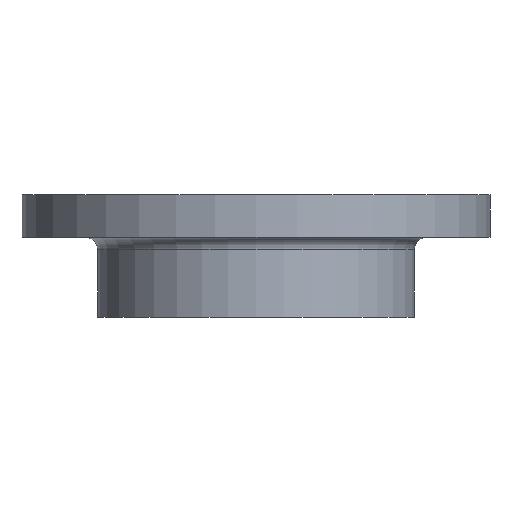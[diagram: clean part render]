
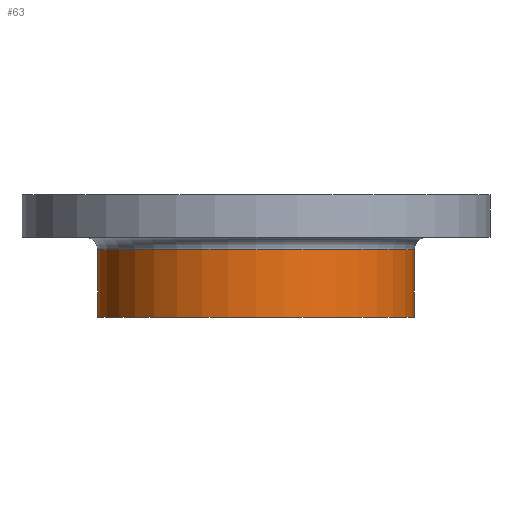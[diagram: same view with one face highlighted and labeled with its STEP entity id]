
A CAD part, front view. The second image highlights one B-rep face of the part: STEP entity #63.
In plain terms, the highlighted cylindrical face has radius 127 mm (diameter 254 mm), a partial arc.
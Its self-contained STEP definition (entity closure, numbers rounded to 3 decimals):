
#13 = EDGE_CURVE ( 'NONE', #970, #1125, #884, .T. ) ;
#42 = DIRECTION ( 'NONE',  ( 1., 0., 0. ) ) ;
#43 = DIRECTION ( 'NONE',  ( 0., 0., 1. ) ) ;
#50 = AXIS2_PLACEMENT_3D ( 'NONE', #411, #410, #409 ) ;
#63 = ADVANCED_FACE ( 'NONE', ( #601 ), #642, .T. ) ;
#87 = VECTOR ( 'NONE', #886, 1000. ) ;
#118 = CARTESIAN_POINT ( 'NONE',  ( -127., 0., -44. ) ) ;
#132 = CARTESIAN_POINT ( 'NONE',  ( 127., 0., -98. ) ) ;
#157 = AXIS2_PLACEMENT_3D ( 'NONE', #604, #640, #630 ) ;
#286 = EDGE_CURVE ( 'NONE', #1125, #860, #691, .T. ) ;
#325 = CARTESIAN_POINT ( 'NONE',  ( -127., 0., -98. ) ) ;
#409 = DIRECTION ( 'NONE',  ( 1., 0., 0. ) ) ;
#410 = DIRECTION ( 'NONE',  ( 0., 0., 1. ) ) ;
#411 = CARTESIAN_POINT ( 'NONE',  ( 0., 0., -98. ) ) ;
#415 = CARTESIAN_POINT ( 'NONE',  ( 127., 0., -44. ) ) ;
#515 = DIRECTION ( 'NONE',  ( 0., 0., 1. ) ) ;
#516 = CARTESIAN_POINT ( 'NONE',  ( 127., 0., 0. ) ) ;
#517 = LINE ( 'NONE', #516, #1026 ) ;
#588 = CIRCLE ( 'NONE', #50, 127. ) ;
#601 = FACE_OUTER_BOUND ( 'NONE', #835, .T. ) ;
#604 = CARTESIAN_POINT ( 'NONE',  ( 0., 0., 0. ) ) ;
#611 = EDGE_CURVE ( 'NONE', #1110, #860, #517, .T. ) ;
#630 = DIRECTION ( 'NONE',  ( 1., 0., 0. ) ) ;
#640 = DIRECTION ( 'NONE',  ( 0., 0., 1. ) ) ;
#642 = CYLINDRICAL_SURFACE ( 'NONE', #157, 127. ) ;
#652 = CARTESIAN_POINT ( 'NONE',  ( 0., 0., -44. ) ) ;
#691 = CIRCLE ( 'NONE', #1025, 127. ) ;
#835 = EDGE_LOOP ( 'NONE', ( #1155, #1157, #1159, #1160 ) ) ;
#860 = VERTEX_POINT ( 'NONE', #415 ) ;
#862 = EDGE_CURVE ( 'NONE', #970, #1110, #588, .T. ) ;
#884 = LINE ( 'NONE', #885, #87 ) ;
#885 = CARTESIAN_POINT ( 'NONE',  ( -127., 0., 0. ) ) ;
#886 = DIRECTION ( 'NONE',  ( 0., 0., 1. ) ) ;
#970 = VERTEX_POINT ( 'NONE', #325 ) ;
#1025 = AXIS2_PLACEMENT_3D ( 'NONE', #652, #43, #42 ) ;
#1026 = VECTOR ( 'NONE', #515, 1000. ) ;
#1110 = VERTEX_POINT ( 'NONE', #132 ) ;
#1125 = VERTEX_POINT ( 'NONE', #118 ) ;
#1155 = ORIENTED_EDGE ( 'NONE', *, *, #13, .F. ) ;
#1157 = ORIENTED_EDGE ( 'NONE', *, *, #862, .T. ) ;
#1159 = ORIENTED_EDGE ( 'NONE', *, *, #611, .T. ) ;
#1160 = ORIENTED_EDGE ( 'NONE', *, *, #286, .F. ) ;
